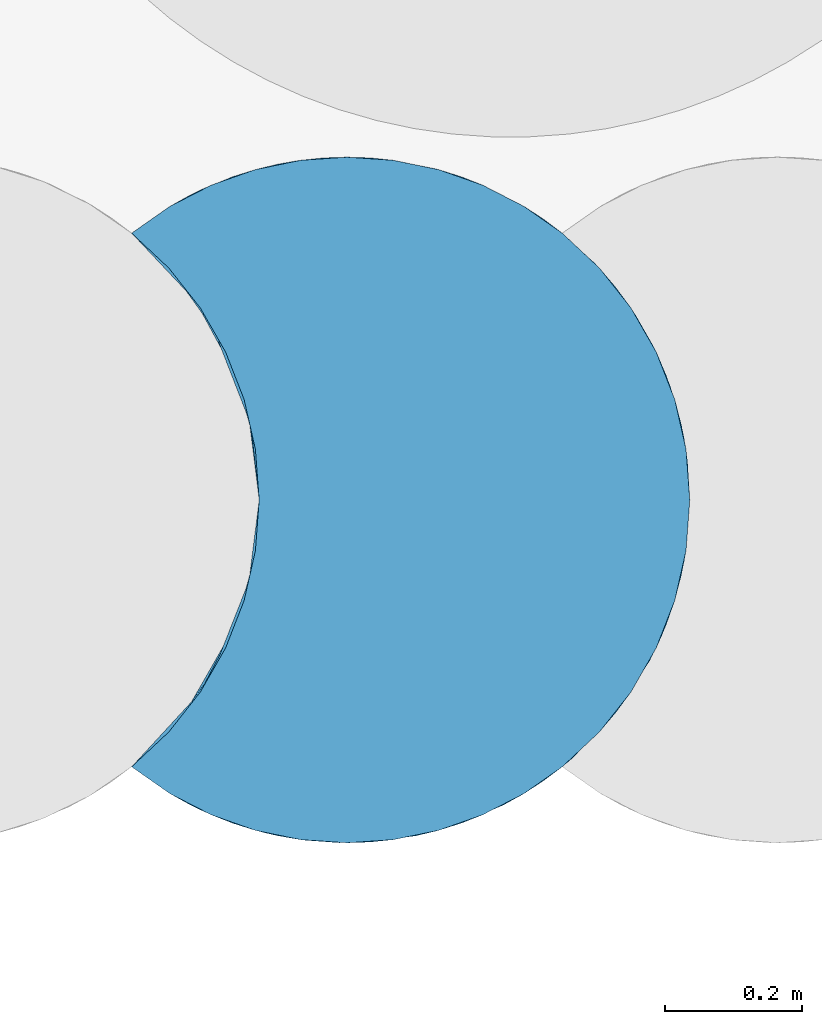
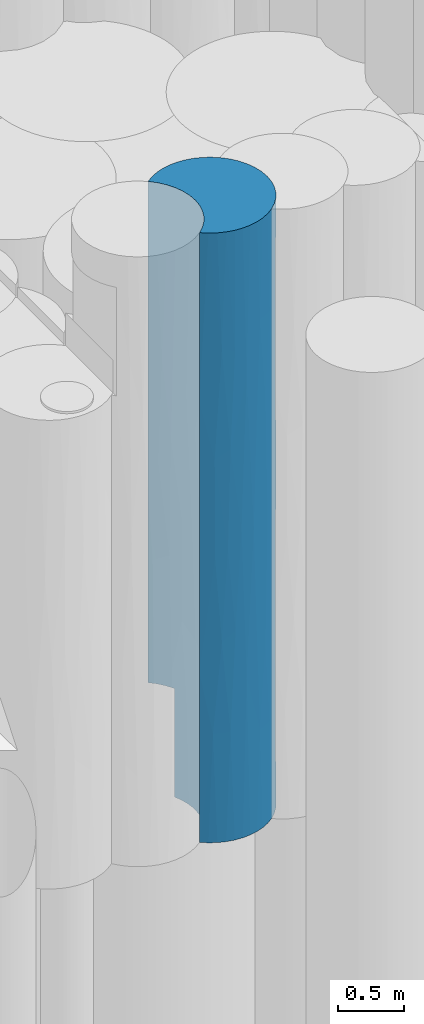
# One storey, part 20 of 104: 1 pile.
"""IFC2X3 building model written with IfcOpenShell, lengths in millimetres."""

import ifcopenshell
import ifcopenshell.guid

model = None  # the IFC model being written
_history = None  # IfcOwnerHistory: only IFC2X3 demands one
_inside = {}  # id of a spatial element -> (the spatial element, [elements in it])
_under = {}  # id of a project, library or spatial element -> (it, [spatial elements below it])
_declared = {}  # id of a project -> (the project, [libraries it declares])
_typed = {}  # id of a type object -> (the type object, [elements of that type])
_made_of = {}  # id of a material, layer set ... -> (it, [elements and type objects made of it])


def new_model(schema):
    """Start an empty IFC model of exactly this schema.

    Asked for "IFC4X3", IfcOpenShell would pick the latest addendum, in which some entities
    have other attributes; the version numbers below select the first issue.
    IFC2X3 requires an IfcOwnerHistory on every rooted entity: one is made here for all.
    """
    global model, _history
    if schema == "IFC4X3":
        model = ifcopenshell.file(schema_version=(4, 3, 0, 0))
    else:
        model = ifcopenshell.file(schema=schema)
    _inside.clear()
    _under.clear()
    _declared.clear()
    _typed.clear()
    _made_of.clear()
    _history = None
    if model.schema == "IFC2X3":
        org = make("IfcOrganization", Name="unknown")
        user = make(
            "IfcPersonAndOrganization",
            ThePerson=make("IfcPerson", FamilyName="unknown"),
            TheOrganization=org,
        )
        app = make(
            "IfcApplication",
            ApplicationDeveloper=org,
            Version="unknown",
            ApplicationFullName="unknown",
            ApplicationIdentifier="unknown",
        )
        _history = make(
            "IfcOwnerHistory",
            OwningUser=user,
            OwningApplication=app,
            ChangeAction="ADDED",
            CreationDate=0,
        )
    return model


def make(cls, **values):
    """One entity of the class cls with the attributes given. An attribute that is None is left unset."""
    return model.create_entity(
        cls, **{name: value for name, value in values.items() if value is not None}
    )


def entity(cls, *values):
    """Any entity or typed value of the class cls, its attributes in the order of the schema. None: left unset."""
    e = model.create_entity(cls)
    for i, value in enumerate(values):
        if value is not None:
            e[i] = value
    return e


def rooted(cls, **values):
    """An entity with a GlobalId (a new one), such as an element, a storey or a relation."""
    return make(cls, GlobalId=ifcopenshell.guid.new(), OwnerHistory=_history, **values)


def si_unit(unit_type, name, prefix=None):
    """IfcSIUnit, for example si_unit("LENGTHUNIT", "METRE", prefix="MILLI")."""
    return make("IfcSIUnit", UnitType=unit_type, Prefix=prefix, Name=name)


def converted_unit(unit_type, name, factor, base, dimensions=None, offset=None):
    """IfcConversionBasedUnit, such as the inch: factor (a typed value) times the base unit."""
    return make(
        "IfcConversionBasedUnit"
        if offset is None
        else "IfcConversionBasedUnitWithOffset",
        ConversionOffset=offset,
        Dimensions=None
        if dimensions is None
        else entity("IfcDimensionalExponents", *dimensions),
        UnitType=unit_type,
        Name=name,
        ConversionFactor=make(
            "IfcMeasureWithUnit", ValueComponent=factor, UnitComponent=base
        ),
    )


def derived_unit(unit_type, elements):
    """IfcDerivedUnit: a product of units, each with its exponent."""
    return make(
        "IfcDerivedUnit",
        Elements=[
            make("IfcDerivedUnitElement", Unit=unit, Exponent=power)
            for unit, power in elements
        ],
        UnitType=unit_type,
    )


def assignment(units):
    """IfcUnitAssignment: the units of a project."""
    return None if units is None else make("IfcUnitAssignment", Units=units)


def point(xyz):
    """IfcCartesianPoint."""
    return None if xyz is None else make("IfcCartesianPoint", Coordinates=xyz)


def direction(xyz):
    """IfcDirection."""
    return None if xyz is None else make("IfcDirection", DirectionRatios=xyz)


def frame(location, z_axis=None, x_axis=None):
    """IfcAxis2Placement3D, a coordinate frame: its origin and axes. An axis left out is left unset."""
    return make(
        "IfcAxis2Placement3D",
        Location=point(location),
        Axis=direction(z_axis),
        RefDirection=direction(x_axis),
    )


def origin():
    """The frame at (0, 0, 0) with its axes left unset."""
    return frame((0.0, 0.0, 0.0))


def place(relative_to, where):
    """IfcLocalPlacement: puts the frame where relative to a parent placement (None: the world)."""
    return make(
        "IfcLocalPlacement", PlacementRelTo=relative_to, RelativePlacement=where
    )


def context(
    kind, dimensions, precision=None, world=None, true_north=None, identifier=None
):
    """IfcGeometricRepresentationContext, for example the 3D "Model" context."""
    return make(
        "IfcGeometricRepresentationContext",
        ContextIdentifier=identifier,
        ContextType=kind,
        CoordinateSpaceDimension=dimensions,
        Precision=precision,
        WorldCoordinateSystem=world,
        TrueNorth=true_north,
    )


def subcontext(parent, identifier, kind, view, scale=None):
    """IfcGeometricRepresentationSubContext, for example "Body" below "Model"."""
    return make(
        "IfcGeometricRepresentationSubContext",
        ContextIdentifier=identifier,
        ContextType=kind,
        ParentContext=parent,
        TargetScale=scale,
        TargetView=view,
    )


def project(units=None, contexts=None):
    """IfcProject with its units and contexts."""
    return rooted(
        "IfcProject",
        Name="project",
        RepresentationContexts=contexts,
        UnitsInContext=assignment(units),
    )


def spatial(cls, under=None, at=None, **own):
    """A site, building, storey or space (cls), placed at a placement, below another one or the project."""
    s = rooted(cls, ObjectPlacement=at, **own)
    if under is not None:
        _under.setdefault(under.id(), (under, []))[1].append(s)
    return s


def faces_of(points, faces, orient=None, outer=None):
    """IfcFace entities. A face is a list of loops; a loop is a list of indices into points, from 0.

    orient and outer hold one flag for each loop. By default every Orientation is true, the
    first loop of a face is its IfcFaceOuterBound and the others are IfcFaceBound.
    """
    made = []
    for i, loops in enumerate(faces):
        bounds = []
        for j, loop in enumerate(loops):
            is_outer = j == 0 if outer is None else outer[i][j]
            bounds.append(
                make(
                    "IfcFaceOuterBound" if is_outer else "IfcFaceBound",
                    Bound=make("IfcPolyLoop", Polygon=[points[k] for k in loop]),
                    Orientation=True if orient is None else orient[i][j],
                )
            )
        made.append(make("IfcFace", Bounds=bounds))
    return made


def faceted_brep(points, faces, orient=None, outer=None, voids=None):
    """IfcFacetedBrep: a solid bounded by flat faces; with voids (closed shells), ...WithVoids."""
    shared = [point(p) for p in points]
    hull = make("IfcClosedShell", CfsFaces=faces_of(shared, faces, orient, outer))
    if voids is None:
        return make("IfcFacetedBrep", Outer=hull)
    return make(
        "IfcFacetedBrepWithVoids",
        Outer=hull,
        Voids=[
            make(cls, CfsFaces=faces_of(shared, fs, o, b)) for cls, fs, o, b in voids
        ],
    )


def shape(context_of_items, identifier, shape_type, items):
    """IfcShapeRepresentation: the items that make up one representation, for example the "Body"."""
    return make(
        "IfcShapeRepresentation",
        ContextOfItems=context_of_items,
        RepresentationIdentifier=identifier,
        RepresentationType=shape_type,
        Items=items,
    )


def source(mapping_origin, context_of_items, identifier, shape_type, items):
    """IfcRepresentationMap: a shape defined once, which mapped items show again and again."""
    return make(
        "IfcRepresentationMap",
        MappingOrigin=mapping_origin,
        MappedRepresentation=shape(context_of_items, identifier, shape_type, items),
    )


def transform(
    local_origin,
    x_axis=None,
    y_axis=None,
    z_axis=None,
    scale=None,
    scale2=None,
    scale3=None,
    uniform=True,
):
    """IfcCartesianTransformationOperator3D, or its non-uniform kind. x_axis, y_axis, z_axis: its Axis1, 2, 3."""
    if uniform:
        return make(
            "IfcCartesianTransformationOperator3D",
            Axis1=direction(x_axis),
            Axis2=direction(y_axis),
            LocalOrigin=point(local_origin),
            Scale=scale,
            Axis3=direction(z_axis),
        )
    return make(
        "IfcCartesianTransformationOperator3DnonUniform",
        Axis1=direction(x_axis),
        Axis2=direction(y_axis),
        LocalOrigin=point(local_origin),
        Scale=scale,
        Axis3=direction(z_axis),
        Scale2=scale2,
        Scale3=scale3,
    )


def mapped(mapping_source, mapping_target):
    """IfcMappedItem: shows the shape of a source again, moved by a transform."""
    return make(
        "IfcMappedItem", MappingSource=mapping_source, MappingTarget=mapping_target
    )


def material(Name=None, Category=None):
    """IfcMaterial."""
    return make("IfcMaterial", Name=Name, Category=Category)


def made_of(thing, what):
    """Note that an element or type object is made of a material, layer set ...; save() writes the relation."""
    if what is not None:
        _made_of.setdefault(what.id(), (what, []))[1].append(thing)
    return thing


def element(
    cls,
    number,
    at=None,
    inside=None,
    cuts=None,
    type_object=None,
    material=None,
    context=None,
    identifier="Body",
    shape_type=None,
    held_by="IfcProductDefinitionShape",
    body=None,
    shapes=None,
    **own,
):
    """One element of the class cls, such as IfcWall. Its Tag is "e" and its number.

    at: its placement. inside: the storey or other place that contains it. cuts: it is an
    opening in that element (IfcRelVoidsElement). A single representation is given by context,
    identifier, shape_type and body (its items); several are given by shapes. held_by: the class
    of the entity that holds the representations. save() writes the other relations.
    """
    e = rooted(cls, Tag="e%d" % number, ObjectPlacement=at, **own)
    if body is not None:
        shapes = [shape(context, identifier, shape_type, body)]
    if shapes is not None:
        e.Representation = make(held_by, Representations=shapes)
    if inside is not None:
        _inside.setdefault(inside.id(), (inside, []))[1].append(e)
    if cuts is not None:
        rooted(
            "IfcRelVoidsElement", RelatingBuildingElement=cuts, RelatedOpeningElement=e
        )
    if type_object is not None:
        _typed.setdefault(type_object.id(), (type_object, []))[1].append(e)
    return made_of(e, material)


def aggregate(whole, parts):
    """IfcRelAggregates: a whole, such as a stair, and the parts it consists of."""
    return rooted("IfcRelAggregates", RelatingObject=whole, RelatedObjects=parts)


def save(model, path):
    """Write the relations noted so far, then the file.

    IfcRelAggregates (storeys below a building ...), IfcRelContainedInSpatialStructure (elements
    in a storey), IfcRelDefinesByType, IfcRelAssociatesMaterial and IfcRelDeclares: one each for
    every whole, place, type object, material and project.
    """
    for whole, parts in _under.values():
        aggregate(whole, parts)
    for where, things in _inside.values():
        rooted(
            "IfcRelContainedInSpatialStructure",
            RelatedElements=things,
            RelatingStructure=where,
        )
    for kind, things in _typed.values():
        rooted("IfcRelDefinesByType", RelatedObjects=things, RelatingType=kind)
    for what, things in _made_of.values():
        rooted("IfcRelAssociatesMaterial", RelatedObjects=things, RelatingMaterial=what)
    for by, libraries in _declared.values():
        rooted("IfcRelDeclares", RelatingContext=by, RelatedDefinitions=libraries)
    model.write(path)


model = new_model("IFC2X3")

# Units and contexts
model_context = context("Model", 3, precision=0.01, world=origin(), true_north=direction((6.12303176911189e-17, 1.0)))
body_context = subcontext(model_context, "Body", "Model", "MODEL_VIEW")
ifc_project = project(units=[si_unit("LENGTHUNIT", "METRE", prefix="MILLI"), si_unit("AREAUNIT", "SQUARE_METRE", prefix="MILLI"), si_unit("VOLUMEUNIT", "CUBIC_METRE"), converted_unit("PLANEANGLEUNIT", "DEGREE", entity("IfcRatioMeasure", 0.0174532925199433), si_unit("PLANEANGLEUNIT", "RADIAN"), dimensions=[0, 0, 0, 0, 0, 0, 0]), si_unit("MASSUNIT", "GRAM", prefix="KILO"), derived_unit("MASSDENSITYUNIT", [(si_unit("MASSUNIT", "GRAM", prefix="KILO"), 1), (si_unit("LENGTHUNIT", "METRE"), -3)]), derived_unit("MOMENTOFINERTIAUNIT", [(si_unit("LENGTHUNIT", "METRE"), 4)]), si_unit("TIMEUNIT", "SECOND"), si_unit("FREQUENCYUNIT", "HERTZ"), si_unit("THERMODYNAMICTEMPERATUREUNIT", "DEGREE_CELSIUS"), derived_unit("THERMALTRANSMITTANCEUNIT", [(si_unit("MASSUNIT", "GRAM", prefix="KILO"), 1), (si_unit("THERMODYNAMICTEMPERATUREUNIT", "KELVIN"), -1), (si_unit("TIMEUNIT", "SECOND"), -3)]), derived_unit("VOLUMETRICFLOWRATEUNIT", [(si_unit("LENGTHUNIT", "METRE"), 3), (si_unit("TIMEUNIT", "SECOND"), -1)]), si_unit("ELECTRICCURRENTUNIT", "AMPERE"), si_unit("ELECTRICVOLTAGEUNIT", "VOLT"), si_unit("POWERUNIT", "WATT"), si_unit("FORCEUNIT", "NEWTON", prefix="KILO"), si_unit("ILLUMINANCEUNIT", "LUX"), si_unit("LUMINOUSFLUXUNIT", "LUMEN"), si_unit("LUMINOUSINTENSITYUNIT", "CANDELA"), derived_unit("USERDEFINED", [(si_unit("MASSUNIT", "GRAM", prefix="KILO"), -1), (si_unit("LENGTHUNIT", "METRE"), -2), (si_unit("TIMEUNIT", "SECOND"), 3), (si_unit("LUMINOUSFLUXUNIT", "LUMEN"), 1)]), derived_unit("LINEARVELOCITYUNIT", [(si_unit("LENGTHUNIT", "METRE"), 1), (si_unit("TIMEUNIT", "SECOND"), -1)]), si_unit("PRESSUREUNIT", "PASCAL"), derived_unit("USERDEFINED", [(si_unit("LENGTHUNIT", "METRE"), -2), (si_unit("MASSUNIT", "GRAM", prefix="KILO"), 1), (si_unit("TIMEUNIT", "SECOND"), -2)]), derived_unit("LINEARFORCEUNIT", [(si_unit("MASSUNIT", "GRAM", prefix="KILO"), 1), (si_unit("LENGTHUNIT", "METRE"), 1), (si_unit("TIMEUNIT", "SECOND"), -2), (si_unit("LENGTHUNIT", "METRE"), -1)]), derived_unit("PLANARFORCEUNIT", [(si_unit("MASSUNIT", "GRAM", prefix="KILO"), 1), (si_unit("LENGTHUNIT", "METRE"), 1), (si_unit("TIMEUNIT", "SECOND"), -2), (si_unit("LENGTHUNIT", "METRE"), -2)])], contexts=[model_context])

# Site, building, storey
site_placement = place(None, origin())
site = spatial("IfcSite", under=ifc_project, at=site_placement, Name="Theater aan de Parade", CompositionType="ELEMENT")
building_placement = place(site_placement, origin())
building = spatial("IfcBuilding", under=site, at=building_placement, Name="Theater aan de Parade", CompositionType="ELEMENT")
storey_placement = place(building_placement, frame((0.0, 0.0, -5520.0)))
storey = spatial("IfcBuildingStorey", under=building, at=storey_placement, Name="-2 kelder", CompositionType="ELEMENT", Elevation=-5520.0)

# Pile
ifc_material = material(Name="00_PBT_MAT_grout")
shared_shape = source(origin(), body_context, "Body", "Brep", [
    faceted_brep([(786.69119586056, 669.132225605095, 0.0), (802.676759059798, 614.518366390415, 0.0), (812.351470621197, 558.457204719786, 0.0), (815.595272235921, 501.595272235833, 0.0), (810.081014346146, 427.542244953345, 0.0), (793.660970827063, 355.126204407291, 0.0), (766.697585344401, 285.941143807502, 0.0), (729.786240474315, 221.51342378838, 0.0), (683.741416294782, 163.263457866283, 0.0), (629.573708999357, 112.471523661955, 0.0), (574.005639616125, 73.5484499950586, 0.0), (513.67931242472, 42.5062688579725, 0.0), (449.710167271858, 19.9177920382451, 0.0), (383.274865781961, 6.1969752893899, 0.0), (315.594989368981, 1.5952722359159, 0.0), (247.914799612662, 6.19709538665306, 0.0), (181.478594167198, 19.918288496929, 0.0), (117.508224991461, 42.5075663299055, 0.0), (57.1823898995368, 73.5499682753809, 0.0), (1.59527223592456, 112.48860305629, 0.0), (55.7556313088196, 163.278926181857, 0.0), (101.797316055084, 221.529803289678, 0.0), (138.705014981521, 285.956685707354, 0.0), (165.664839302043, 355.138831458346, 0.0), (182.082270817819, 427.550635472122, 0.0), (187.595272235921, 501.595272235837, 0.0), (184.351856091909, 558.453837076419, 0.0), (174.67681962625, 614.518105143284, 0.0), (158.690674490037, 669.133691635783, 0.0), (136.59415864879, 721.595272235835, 0.0), (764.594158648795, 721.595272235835, 0.0), (803.850629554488, 609.329695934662, 1098.76743153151), (764.594158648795, 721.595272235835, 1000.0), (737.01134393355, 770.683537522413, 3350.65346789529), (761.366388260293, 728.064060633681, 2530.55329258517), (706.349146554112, 813.543039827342, 2504.57977053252), (815.595272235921, 501.595272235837, 2810.0), (815.595272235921, 501.595272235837, 1561.53772504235), (796.03390505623, 640.082528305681, 2185.7688370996), (446.597837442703, 984.128512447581, 3310.00430009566), (349.517904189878, 1000.44320000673, 3309.99592035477), (349.51305740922, 1000.44352957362, 4486.05467823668), (769.150938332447, 712.040651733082, 4647.38674584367), (803.217150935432, 612.161557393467, 4576.62228276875), (781.465361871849, 683.158097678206, 3717.05793522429), (315.598129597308, 1001.59527222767, 1000.0), (247.91424749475, 996.993373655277, 1000.0), (281.678049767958, 1000.44356783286, 2218.17509402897), (449.710166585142, 983.272752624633, 5620.0), (482.078281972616, 973.064685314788, 4149.15755263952), (602.467115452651, 911.112726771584, 2133.92442127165), (682.65649192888, 841.1038302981, 1000.0), (629.595272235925, 890.70194141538, 1000.0), (513.689946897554, 960.679686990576, 1000.0), (482.088212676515, 973.0611785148, 2470.89044496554), (683.741416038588, 839.92708688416, 5620.0), (707.846598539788, 811.658003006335, 4209.01499249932), (602.455926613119, 911.120564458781, 4486.06498501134), (574.016438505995, 929.635575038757, 1000.0), (727.977154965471, 784.333990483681, 1000.0), (214.463722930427, 991.260882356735, 4202.5376945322), (102.916724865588, 954.108073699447, 3914.3324084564), (86.8181886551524, 946.186147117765, 4787.72189773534), (807.68110929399, 590.204126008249, 3711.95947289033), (810.081014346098, 575.648299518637, 5620.0), (793.660970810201, 648.064340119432, 5620.0), (602.467114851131, 911.112727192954, 3309.99087476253), (766.69758527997, 717.249400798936, 5620.0), (729.786240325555, 781.677120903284, 5620.0), (1.5952722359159, 890.70194141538, 2561.53065902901), (1.5952722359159, 890.70194141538, 4123.06131805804), (182.78208985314, 983.633298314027, 2000.73200514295), (181.474504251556, 983.27111717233, 1000.0), (574.005639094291, 929.642094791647, 5620.0), (629.583826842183, 890.711177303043, 5620.0), (247.914799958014, 996.993449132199, 5620.0), (315.594989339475, 1001.59527223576, 5620.0), (676.678426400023, 847.455006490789, 3303.46444704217), (382.286471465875, 997.127596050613, 2412.91478653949), (449.719299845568, 983.270209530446, 1000.0), (383.281381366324, 996.992679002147, 1000.0), (815.595272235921, 501.595272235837, 5620.0), (815.595272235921, 501.595272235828, 4215.0), (815.595272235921, 501.595272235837, 4058.46227495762), (1.5952722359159, 890.70194141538, 5620.0), (57.1823902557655, 929.64057641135, 5620.0), (149.104149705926, 973.061820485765, 2892.1004609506), (243.892809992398, 996.427321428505, 3268.07195479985), (86.8102220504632, 946.182047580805, 2023.19420083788), (117.501033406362, 960.679875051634, 1000.0), (513.679311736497, 960.684275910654, 5620.0), (1.59527223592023, 890.70194141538, 1000.0), (117.508225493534, 960.682978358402, 5620.0), (383.27486534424, 996.993569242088, 5620.0), (57.1737559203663, 929.635363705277, 1000.0), (181.478594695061, 983.27225612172, 5620.0), (815.595272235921, 501.595272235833, 1405.0), (214.463722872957, 11.9296621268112, 1001.60366220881), (808.009902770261, 414.83219462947, 1847.98448740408), (792.43443489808, 351.181134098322, 2810.0), (86.818188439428, 57.0043974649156, 1001.60823295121), (349.51305809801, 2.74701494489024, 1456.93127707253), (98.4515162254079, 51.2081174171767, 3529.64056104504), (1.59527223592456, 112.488603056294, 4058.45131446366), (1.5952722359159, 112.488603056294, 3123.07163140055), (249.701943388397, 5.95622089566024, 4503.82682990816), (149.109845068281, 30.1267127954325, 4541.99463838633), (214.463723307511, 11.9296620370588, 3609.1385170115), (781.46536321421, 320.03245023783, 1716.18295604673), (707.846599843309, 191.532543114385, 2810.0), (707.846599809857, 191.532543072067, 1367.61085804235), (482.078283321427, 30.1258596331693, 920.017399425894), (602.455927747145, 92.0699808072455, 920.031773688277), (638.186458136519, 119.580970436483, 1901.0577975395), (544.369594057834, 57.0029762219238, 1664.68203221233), (810.081014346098, 427.542244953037, 5620.0), (803.217151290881, 391.028988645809, 4660.00032120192), (57.1823902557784, 73.5499680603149, 5620.0), (117.508225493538, 42.5075661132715, 5620.0), (149.109844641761, 30.1267129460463, 1845.0048111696), (254.091028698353, 5.39246286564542, 1927.06357322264), (602.455927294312, 92.0699804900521, 4699.96822715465), (482.078282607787, 30.1258593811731, 4699.98260157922), (544.369593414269, 57.0029758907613, 3955.31797055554), (683.741416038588, 163.263457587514, 5620.0), (629.583826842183, 112.479367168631, 5620.0), (181.478594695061, 19.9182883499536, 5620.0), (101.111523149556, 49.9353101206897, 2619.91457111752), (1.59527223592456, 112.488603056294, 1561.54868553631), (773.711306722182, 301.271287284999, 4758.76160589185), (781.465363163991, 320.032450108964, 3903.81704454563), (1.59527223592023, 112.488603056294, 5620.0), (383.274865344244, 6.19697522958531, 5620.0), (315.59498933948, 1.5952722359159, 5620.0), (349.513057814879, 2.74701492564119, 4251.72331694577), (247.91479995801, 6.19709533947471, 5620.0), (808.009902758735, 414.832194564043, 3772.01551167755), (773.711306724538, 301.271287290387, 861.238394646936), (446.449233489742, 19.0217122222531, 1841.02651395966), (445.214515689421, 18.6886024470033, 3769.12880331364), (793.660970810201, 355.126204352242, 5620.0), (766.69758527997, 285.941143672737, 5620.0), (803.217151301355, 391.028988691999, 959.999678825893), (304.342544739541, 1.72191214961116, 2858.50339849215), (193.948211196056, 16.6189918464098, 2685.15587669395), (513.679311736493, 42.50626856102, 5620.0), (449.710166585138, 19.9177918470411, 5620.0), (574.005639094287, 73.5484496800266, 5620.0), (416.725481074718, 11.9293852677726, 2810.0), (571.530120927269, 72.0637213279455, 2810.0), (707.846599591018, 191.532542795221, 4252.38914051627), (729.78624032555, 221.513423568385, 5620.0), (757.411397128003, 267.504452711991, 3167.42466505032), (638.186457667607, 119.580970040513, 3718.94220097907), (645.147285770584, 125.569381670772, 2737.35178432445), (1.59527223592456, 112.48860305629, 2496.92458727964), (55.7556313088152, 839.911618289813, 5620.0), (101.797316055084, 781.660741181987, 5620.0), (138.705014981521, 717.233858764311, 5620.0), (165.664839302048, 648.051713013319, 5620.0), (182.082270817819, 575.639908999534, 5620.0), (187.595272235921, 501.59527223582, 5620.0), (182.082270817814, 427.550635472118, 5620.0), (165.664839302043, 355.138831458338, 5620.0), (138.705014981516, 285.95668570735, 5620.0), (101.797316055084, 221.529803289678, 5620.0), (55.7556313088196, 163.278926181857, 5620.0), (136.594158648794, 721.595272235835, 1000.0), (172.122008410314, 625.020723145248, 2185.76883889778), (119.427502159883, 753.628851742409, 2433.42986645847), (175.21954898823, 612.150980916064, 4576.67015981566), (187.595272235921, 501.595272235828, 4058.46227468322), (187.595272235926, 501.595272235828, 4839.23114702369), (175.896633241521, 609.120993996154, 1097.45129906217), (94.6291822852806, 791.980182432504, 3512.63833996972), (153.47088726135, 683.14391950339, 3717.14064093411), (121.448734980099, 750.13334349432, 4576.67015594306), (187.595272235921, 501.595272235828, 2810.0), (187.595272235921, 501.595272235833, 1561.53772531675), (63.9162977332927, 830.810225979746, 1978.06996583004), (179.682000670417, 590.199175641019, 3712.09113047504), (61.853358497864, 833.153539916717, 4677.61981977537), (99.9793152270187, 784.330839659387, 1000.0), (54.6608621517, 841.09910535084, 1000.0), (187.595272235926, 501.595272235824, 780.768852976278), (187.595272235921, 501.595272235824, 3123.07541190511), (174.669644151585, 388.641493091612, 3590.76885291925), (179.684618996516, 413.005911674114, 1171.15327929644), (153.470888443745, 320.046628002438, 4528.23196711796), (178.678003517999, 407.585958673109, 4768.20537871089), (79.859244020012, 191.548539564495, 992.298435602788), (153.470888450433, 320.046628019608, 992.29843551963), (172.048086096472, 377.879989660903, 2161.96816482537), (101.213610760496, 220.66846675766, 4584.62325484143), (121.448735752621, 253.057202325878, 3610.51128799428), (121.448735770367, 253.057202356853, 1789.11083026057), (68.3744799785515, 177.547135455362, 3047.10534667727), (64.7189653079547, 173.300099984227, 2029.23114692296), (121.049079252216, 252.360850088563, 2699.81105912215)], [[[0, 1, 2, 3, 4, 5, 6, 7, 8, 9, 10, 11, 12, 13, 14, 15, 16, 17, 18, 19, 20, 21, 22, 23, 24, 25, 26, 27, 28, 29, 30]], [[31, 0, 32]], [[33, 34, 35]], [[36, 37, 38]], [[39, 40, 41]], [[38, 37, 31]], [[42, 43, 44]], [[45, 46, 47]], [[48, 49, 41]], [[50, 51, 52]], [[53, 54, 50]], [[55, 56, 57]], [[50, 35, 51]], [[52, 58, 50]], [[0, 30, 32]], [[32, 59, 34]], [[35, 34, 59]], [[60, 61, 62]], [[43, 63, 44]], [[3, 2, 31]], [[64, 43, 65]], [[56, 42, 33]], [[54, 66, 50]], [[42, 65, 43]], [[35, 59, 51]], [[42, 67, 65]], [[67, 42, 68]], [[61, 69, 70]], [[71, 46, 72]], [[73, 74, 57]], [[41, 75, 76]], [[2, 1, 31]], [[77, 57, 56]], [[78, 79, 80]], [[43, 81, 82, 83]], [[79, 54, 53]], [[56, 55, 68]], [[78, 80, 45]], [[84, 85, 62]], [[45, 47, 78]], [[78, 47, 40]], [[86, 87, 71]], [[87, 86, 60]], [[88, 71, 89]], [[0, 31, 1]], [[39, 66, 54]], [[57, 90, 73]], [[71, 88, 86]], [[77, 56, 33]], [[69, 88, 91]], [[85, 92, 62]], [[50, 58, 53]], [[41, 49, 39]], [[57, 74, 55]], [[90, 49, 48]], [[93, 41, 76]], [[50, 66, 77]], [[41, 93, 48]], [[60, 75, 41]], [[86, 61, 60]], [[94, 88, 89]], [[69, 86, 88]], [[91, 88, 94]], [[95, 75, 60]], [[41, 40, 87]], [[95, 60, 62]], [[49, 57, 66]], [[81, 43, 64]], [[49, 90, 57]], [[63, 43, 83]], [[47, 71, 87]], [[63, 38, 44]], [[46, 71, 47]], [[89, 71, 72]], [[33, 42, 44]], [[68, 42, 56]], [[83, 36, 63]], [[38, 63, 36]], [[38, 31, 32]], [[31, 37, 96, 3]], [[66, 39, 49]], [[78, 39, 54]], [[69, 61, 86]], [[84, 62, 70]], [[62, 92, 95]], [[70, 62, 61]], [[41, 87, 60]], [[47, 87, 40]], [[34, 44, 38]], [[77, 33, 35]], [[44, 34, 33]], [[32, 34, 38]], [[50, 77, 35]], [[77, 66, 57]], [[39, 78, 40]], [[78, 54, 79]], [[97, 16, 15]], [[98, 36, 99]], [[97, 100, 17]], [[14, 97, 15]], [[14, 13, 101]], [[102, 103, 104]], [[105, 106, 107]], [[108, 109, 110]], [[12, 111, 13]], [[112, 113, 114]], [[97, 14, 101]], [[115, 116, 81]], [[117, 106, 118]], [[11, 111, 12]], [[119, 97, 120]], [[10, 111, 11]], [[121, 122, 123]], [[124, 125, 121]], [[106, 126, 118]], [[127, 128, 119]], [[129, 130, 116]], [[117, 131, 103]], [[132, 133, 134]], [[126, 106, 105]], [[17, 16, 97]], [[110, 8, 7]], [[105, 133, 135]], [[136, 82, 116]], [[122, 132, 134]], [[137, 6, 5]], [[112, 111, 10]], [[120, 97, 101]], [[111, 138, 101]], [[139, 123, 122]], [[111, 112, 114]], [[105, 107, 134]], [[137, 7, 6]], [[106, 102, 107]], [[140, 141, 129]], [[36, 136, 99]], [[142, 5, 4]], [[100, 97, 119]], [[137, 142, 108]], [[143, 144, 120]], [[143, 134, 107]], [[137, 5, 142]], [[122, 145, 146]], [[112, 8, 110]], [[112, 10, 9]], [[145, 122, 147]], [[122, 121, 147]], [[17, 100, 18]], [[148, 138, 149]], [[125, 147, 121]], [[124, 150, 151]], [[151, 150, 129]], [[140, 116, 115]], [[152, 108, 99]], [[116, 140, 129]], [[121, 153, 150]], [[103, 106, 117]], [[114, 113, 149]], [[96, 142, 3]], [[81, 116, 82]], [[18, 100, 19]], [[152, 150, 109]], [[144, 102, 127]], [[119, 128, 100]], [[19, 100, 128]], [[138, 111, 114]], [[13, 111, 101]], [[8, 112, 9]], [[113, 112, 110]], [[132, 122, 146]], [[139, 148, 149]], [[153, 121, 123]], [[124, 121, 150]], [[136, 116, 130]], [[3, 142, 4]], [[98, 142, 96]], [[110, 109, 113]], [[150, 153, 109]], [[154, 149, 113]], [[149, 123, 139]], [[123, 149, 153]], [[153, 149, 154]], [[122, 134, 139]], [[134, 148, 139]], [[103, 102, 106]], [[144, 127, 119]], [[149, 138, 114]], [[148, 101, 138]], [[143, 101, 148]], [[144, 119, 120]], [[120, 101, 143]], [[102, 144, 107]], [[134, 143, 148]], [[107, 144, 143]], [[102, 104, 127]], [[127, 104, 155, 128]], [[99, 136, 130]], [[136, 36, 83, 82]], [[98, 96, 37, 36]], [[152, 99, 130]], [[108, 142, 98]], [[99, 108, 98]], [[151, 129, 141]], [[150, 130, 129]], [[108, 110, 137]], [[7, 137, 110]], [[133, 105, 134]], [[126, 105, 135]], [[150, 152, 130]], [[108, 152, 109]], [[113, 109, 154]], [[153, 154, 109]], [[90, 48, 93, 76, 75, 95, 92, 85, 84, 156, 157, 158, 159, 160, 161, 162, 163, 164, 165, 166, 131, 117, 118, 126, 135, 133, 132, 146, 145, 147, 125, 124, 151, 141, 140, 115, 81, 64, 65, 67, 68, 55, 74, 73]], [[167, 168, 169]], [[170, 171, 172, 161]], [[173, 27, 26]], [[174, 175, 176]], [[70, 69, 174]], [[25, 173, 26]], [[177, 168, 178]], [[170, 176, 175]], [[157, 176, 158]], [[179, 174, 69]], [[170, 175, 180]], [[180, 175, 168]], [[167, 28, 173]], [[169, 175, 174]], [[181, 156, 84]], [[173, 168, 167]], [[169, 182, 167]], [[183, 182, 179]], [[70, 174, 181]], [[181, 176, 157]], [[160, 159, 170]], [[179, 69, 91]], [[171, 170, 180]], [[170, 158, 176]], [[158, 170, 159]], [[160, 170, 161]], [[179, 169, 174]], [[28, 167, 29]], [[173, 178, 168]], [[156, 181, 157]], [[169, 168, 175]], [[173, 25, 184, 178]], [[28, 27, 173]], [[180, 177, 185, 171]], [[177, 180, 168]], [[169, 179, 182]], [[183, 179, 91]], [[176, 181, 174]], [[70, 181, 84]], [[185, 186, 171]], [[184, 24, 187]], [[188, 163, 189]], [[190, 20, 19]], [[22, 21, 190, 191]], [[21, 20, 190]], [[186, 185, 192]], [[166, 193, 103]], [[193, 188, 194]], [[189, 171, 186]], [[191, 195, 192]], [[191, 192, 187]], [[188, 193, 164]], [[162, 172, 189]], [[184, 25, 24]], [[161, 172, 162]], [[188, 164, 163]], [[166, 103, 131]], [[164, 193, 165]], [[155, 196, 197]], [[23, 187, 24]], [[23, 22, 191]], [[190, 195, 191]], [[196, 155, 104, 103]], [[197, 128, 155]], [[195, 190, 197]], [[128, 190, 19]], [[186, 194, 188]], [[186, 192, 198]], [[192, 185, 177, 178]], [[194, 186, 198]], [[128, 197, 190]], [[194, 198, 196]], [[195, 197, 198]], [[193, 194, 196]], [[165, 193, 166]], [[103, 193, 196]], [[196, 198, 197]], [[195, 198, 192]], [[172, 171, 189]], [[162, 189, 163]], [[188, 189, 186]], [[178, 184, 187]], [[178, 187, 192]], [[23, 191, 187]], [[94, 89, 72, 46, 45, 80, 79, 53, 58, 52, 51, 59, 32, 167, 182, 183, 91]], [[32, 30, 29, 167]]]),
])
pile_placement = place(storey_placement, frame((35894.2628578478, 22160.7721311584, -3840.0)))
element("IfcPile", 1, at=pile_placement, inside=storey, material=ifc_material, Name="17_PBT_SFO_grondkering_rond:Ø1000 (grondkering)", ObjectType="17_PBT_SFO_grondkering_rond:Ø1000 (grondkering)", PredefinedType="NOTDEFINED", context=body_context, shape_type="MappedRepresentation", body=[
    mapped(shared_shape, transform((0.0, 0.0, 0.0), scale=1.0)),
])

save(model, "model.ifc")
